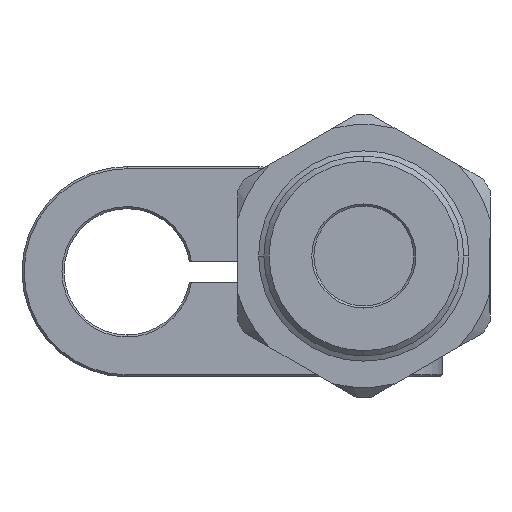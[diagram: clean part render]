
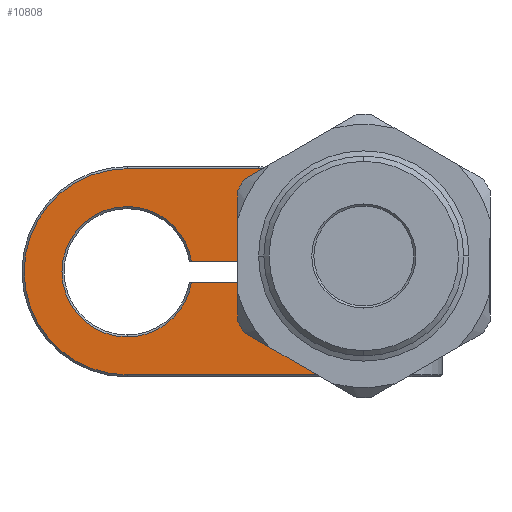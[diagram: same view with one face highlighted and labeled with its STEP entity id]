
A CAD part, front view. The second image highlights one B-rep face of the part: STEP entity #10808.
In plain terms, the highlighted planar face has unit normal (0, -1, 0).
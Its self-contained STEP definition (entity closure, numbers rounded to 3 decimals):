
#60 = ORIENTED_EDGE ( 'NONE', *, *, #21964, .T. ) ;
#116 = CARTESIAN_POINT ( 'NONE',  ( -17.801, -19.732, 13.419 ) ) ;
#131 = EDGE_CURVE ( 'NONE', #24275, #1350, #9707, .T. ) ;
#338 = DIRECTION ( 'NONE',  ( 1., 0., 0. ) ) ;
#390 = ORIENTED_EDGE ( 'NONE', *, *, #16006, .T. ) ;
#610 = CARTESIAN_POINT ( 'NONE',  ( -23.92, -19.732, 24.219 ) ) ;
#692 = CARTESIAN_POINT ( 'NONE',  ( -23.92, -19.732, 8.219 ) ) ;
#814 = VERTEX_POINT ( 'NONE', #1043 ) ;
#905 = ORIENTED_EDGE ( 'NONE', *, *, #10038, .T. ) ;
#1043 = CARTESIAN_POINT ( 'NONE',  ( -1.42, -19.732, 4.619 ) ) ;
#1350 = VERTEX_POINT ( 'NONE', #19210 ) ;
#1855 = CARTESIAN_POINT ( 'NONE',  ( -23.92, -19.732, 14.419 ) ) ;
#1892 = CIRCLE ( 'NONE', #2609, 6.2 ) ;
#2010 = CARTESIAN_POINT ( 'NONE',  ( -8.42, -19.732, 12.219 ) ) ;
#2442 = CARTESIAN_POINT ( 'NONE',  ( -23.92, -19.732, 4.619 ) ) ;
#2609 = AXIS2_PLACEMENT_3D ( 'NONE', #11745, #27624, #14016 ) ;
#3041 = EDGE_CURVE ( 'NONE', #5971, #13741, #26089, .T. ) ;
#3110 = ORIENTED_EDGE ( 'NONE', *, *, #21052, .T. ) ;
#3648 = CARTESIAN_POINT ( 'NONE',  ( -9.62, -19.732, 22.419 ) ) ;
#4151 = DIRECTION ( 'NONE',  ( 0., 0., -1. ) ) ;
#4308 = AXIS2_PLACEMENT_3D ( 'NONE', #6660, #22453, #8911 ) ;
#4398 = VECTOR ( 'NONE', #23931, 1000. ) ;
#4420 = LINE ( 'NONE', #27950, #16446 ) ;
#5140 = VERTEX_POINT ( 'NONE', #5456 ) ;
#5456 = CARTESIAN_POINT ( 'NONE',  ( -11.42, -19.732, 24.219 ) ) ;
#5830 = EDGE_CURVE ( 'NONE', #25993, #10259, #11265, .T. ) ;
#5971 = VERTEX_POINT ( 'NONE', #20208 ) ;
#6091 = EDGE_CURVE ( 'NONE', #5140, #5971, #20089, .T. ) ;
#6660 = CARTESIAN_POINT ( 'NONE',  ( -23.92, -19.732, 14.419 ) ) ;
#6828 = CIRCLE ( 'NONE', #11223, 1.8 ) ;
#7032 = ORIENTED_EDGE ( 'NONE', *, *, #5830, .T. ) ;
#7457 = DIRECTION ( 'NONE',  ( -1., 0., 0. ) ) ;
#7604 = VECTOR ( 'NONE', #11778, 1000. ) ;
#8343 = DIRECTION ( 'NONE',  ( -1., 0., 0. ) ) ;
#8478 = ORIENTED_EDGE ( 'NONE', *, *, #6091, .T. ) ;
#8593 = PLANE ( 'NONE',  #20733 ) ;
#8691 = DIRECTION ( 'NONE',  ( 0., -1., 0. ) ) ;
#8911 = DIRECTION ( 'NONE',  ( 0., 0., -1. ) ) ;
#8978 = VECTOR ( 'NONE', #8343, 1000. ) ;
#9005 = ORIENTED_EDGE ( 'NONE', *, *, #18913, .T. ) ;
#9232 = EDGE_CURVE ( 'NONE', #28815, #25940, #22432, .T. ) ;
#9248 = DIRECTION ( 'NONE',  ( 0., 1., 0. ) ) ;
#9337 = CARTESIAN_POINT ( 'NONE',  ( -13.92, -19.732, 15.419 ) ) ;
#9667 = ORIENTED_EDGE ( 'NONE', *, *, #131, .T. ) ;
#9707 = LINE ( 'NONE', #2010, #8978 ) ;
#9943 = CIRCLE ( 'NONE', #17116, 6.2 ) ;
#10038 = EDGE_CURVE ( 'NONE', #25940, #29089, #10412, .T. ) ;
#10120 = ORIENTED_EDGE ( 'NONE', *, *, #19078, .T. ) ;
#10259 = VERTEX_POINT ( 'NONE', #116 ) ;
#10412 = LINE ( 'NONE', #3648, #4398 ) ;
#10668 = CARTESIAN_POINT ( 'NONE',  ( -9.62, -19.732, 13.419 ) ) ;
#10808 = ADVANCED_FACE ( 'NONE', ( #18160 ), #8593, .T. ) ;
#11223 = AXIS2_PLACEMENT_3D ( 'NONE', #12775, #28696, #15036 ) ;
#11265 = LINE ( 'NONE', #26297, #28681 ) ;
#11424 = CIRCLE ( 'NONE', #23938, 1.2 ) ;
#11610 = CARTESIAN_POINT ( 'NONE',  ( -23.92, -19.732, 14.419 ) ) ;
#11745 = CARTESIAN_POINT ( 'NONE',  ( -23.92, -19.732, 14.419 ) ) ;
#11778 = DIRECTION ( 'NONE',  ( 0., 0., 1. ) ) ;
#11841 = EDGE_LOOP ( 'NONE', ( #9667, #390, #7032, #10120, #18181, #24802, #20053, #905, #60, #8478, #26818, #3110, #9005 ) ) ;
#12643 = EDGE_CURVE ( 'NONE', #14611, #13637, #20397, .T. ) ;
#12720 = CARTESIAN_POINT ( 'NONE',  ( -9.62, -19.732, 15.419 ) ) ;
#12763 = CARTESIAN_POINT ( 'NONE',  ( -9.62, -19.732, 22.419 ) ) ;
#12775 = CARTESIAN_POINT ( 'NONE',  ( -11.42, -19.732, 22.419 ) ) ;
#13576 = LINE ( 'NONE', #16336, #7604 ) ;
#13637 = VERTEX_POINT ( 'NONE', #22512 ) ;
#13741 = VERTEX_POINT ( 'NONE', #2442 ) ;
#13868 = DIRECTION ( 'NONE',  ( 0., 0., -1. ) ) ;
#13876 = CARTESIAN_POINT ( 'NONE',  ( -17.801, -19.732, 15.419 ) ) ;
#14016 = DIRECTION ( 'NONE',  ( 0., 0., -1. ) ) ;
#14063 = VECTOR ( 'NONE', #7457, 1000. ) ;
#14216 = DIRECTION ( 'NONE',  ( 1., 0., 0. ) ) ;
#14611 = VERTEX_POINT ( 'NONE', #692 ) ;
#15036 = DIRECTION ( 'NONE',  ( 0., 0., -1. ) ) ;
#16006 = EDGE_CURVE ( 'NONE', #1350, #25993, #11424, .T. ) ;
#16336 = CARTESIAN_POINT ( 'NONE',  ( -1.42, -19.732, 14.419 ) ) ;
#16422 = VECTOR ( 'NONE', #338, 1000. ) ;
#16446 = VECTOR ( 'NONE', #14216, 1000. ) ;
#17116 = AXIS2_PLACEMENT_3D ( 'NONE', #11610, #27477, #13868 ) ;
#17677 = DIRECTION ( 'NONE',  ( 0., 1., 0. ) ) ;
#18160 = FACE_OUTER_BOUND ( 'NONE', #11841, .T. ) ;
#18181 = ORIENTED_EDGE ( 'NONE', *, *, #12643, .T. ) ;
#18851 = CARTESIAN_POINT ( 'NONE',  ( -1.42, -19.732, 12.219 ) ) ;
#18913 = EDGE_CURVE ( 'NONE', #814, #24275, #13576, .T. ) ;
#19078 = EDGE_CURVE ( 'NONE', #10259, #14611, #1892, .T. ) ;
#19210 = CARTESIAN_POINT ( 'NONE',  ( -8.42, -19.732, 12.219 ) ) ;
#20053 = ORIENTED_EDGE ( 'NONE', *, *, #9232, .T. ) ;
#20089 = LINE ( 'NONE', #610, #14063 ) ;
#20208 = CARTESIAN_POINT ( 'NONE',  ( -23.92, -19.732, 24.219 ) ) ;
#20397 = CIRCLE ( 'NONE', #21059, 6.2 ) ;
#20733 = AXIS2_PLACEMENT_3D ( 'NONE', #22232, #8691, #24525 ) ;
#21052 = EDGE_CURVE ( 'NONE', #13741, #814, #4420, .T. ) ;
#21059 = AXIS2_PLACEMENT_3D ( 'NONE', #1855, #17677, #4151 ) ;
#21964 = EDGE_CURVE ( 'NONE', #29089, #5140, #6828, .T. ) ;
#22232 = CARTESIAN_POINT ( 'NONE',  ( -13.92, -19.732, 14.419 ) ) ;
#22432 = LINE ( 'NONE', #9337, #16422 ) ;
#22453 = DIRECTION ( 'NONE',  ( 0., -1., 0. ) ) ;
#22479 = EDGE_CURVE ( 'NONE', #13637, #28815, #9943, .T. ) ;
#22512 = CARTESIAN_POINT ( 'NONE',  ( -23.92, -19.732, 20.619 ) ) ;
#22806 = CARTESIAN_POINT ( 'NONE',  ( -8.42, -19.732, 13.419 ) ) ;
#23931 = DIRECTION ( 'NONE',  ( 0., 0., 1. ) ) ;
#23938 = AXIS2_PLACEMENT_3D ( 'NONE', #22806, #9248, #25097 ) ;
#23989 = DIRECTION ( 'NONE',  ( -1., 0., 0. ) ) ;
#24275 = VERTEX_POINT ( 'NONE', #18851 ) ;
#24525 = DIRECTION ( 'NONE',  ( 0., 0., -1. ) ) ;
#24802 = ORIENTED_EDGE ( 'NONE', *, *, #22479, .T. ) ;
#25097 = DIRECTION ( 'NONE',  ( 0., 0., -1. ) ) ;
#25940 = VERTEX_POINT ( 'NONE', #12720 ) ;
#25993 = VERTEX_POINT ( 'NONE', #10668 ) ;
#26089 = CIRCLE ( 'NONE', #4308, 9.8 ) ;
#26297 = CARTESIAN_POINT ( 'NONE',  ( -13.92, -19.732, 13.419 ) ) ;
#26818 = ORIENTED_EDGE ( 'NONE', *, *, #3041, .T. ) ;
#27477 = DIRECTION ( 'NONE',  ( 0., 1., 0. ) ) ;
#27624 = DIRECTION ( 'NONE',  ( 0., 1., 0. ) ) ;
#27950 = CARTESIAN_POINT ( 'NONE',  ( -1.42, -19.732, 4.619 ) ) ;
#28681 = VECTOR ( 'NONE', #23989, 1000. ) ;
#28696 = DIRECTION ( 'NONE',  ( 0., -1., 0. ) ) ;
#28815 = VERTEX_POINT ( 'NONE', #13876 ) ;
#29089 = VERTEX_POINT ( 'NONE', #12763 ) ;
